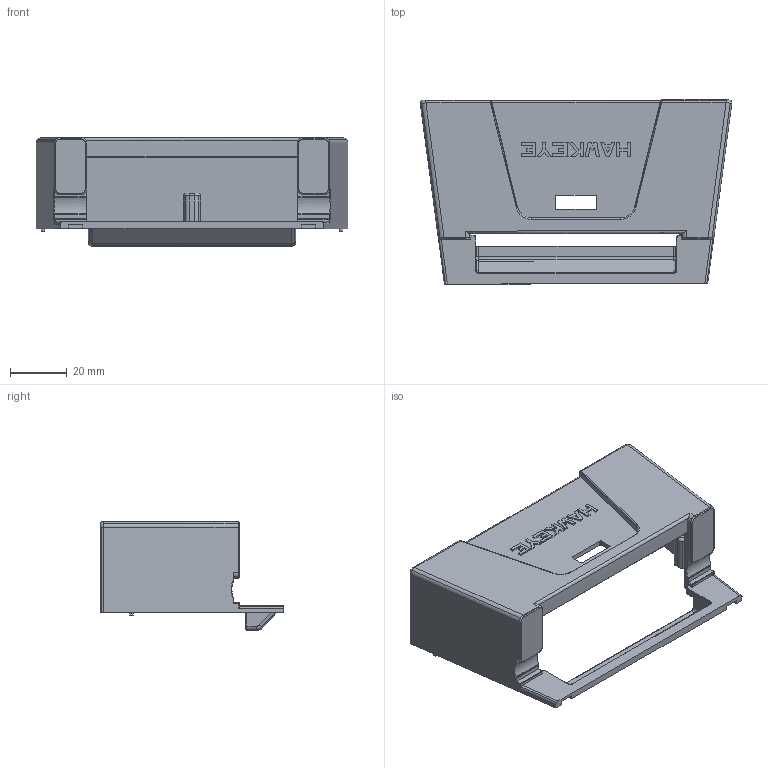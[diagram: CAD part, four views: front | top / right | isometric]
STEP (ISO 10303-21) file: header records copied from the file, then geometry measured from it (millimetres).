
FILE_DESCRIPTION(('STEP AP214'),'1');
FILE_NAME('01-Bottom Front Cover v19.stp','2020-04-02T22:03:39',(' '),(' '),'Spatial InterOp 3D',' ',' ');
FILE_SCHEMA(('AUTOMOTIVE_DESIGN { 1 0 10303 214 1 1 1 1 }'));
Length unit declared in the file: metre
Products named in the file (1): Corps1
Bounding box: 109.71 x 64.74 x 38.25 mm (x, y, z)
Volume: 33808.9 mm3; surface area: 29938.9 mm2
Topology: 1 solids, 1 shells, 506 faces, 1349 edges, 857 vertices
Faces by surface type: cylinder 247, plane 174, torus 40, bspline 37, sphere 8
Entity records: 23860 total; most frequent: CARTESIAN_POINT 11031, DIRECTION 2764, ORIENTED_EDGE 2690, EDGE_CURVE 1345, AXIS2_PLACEMENT_3D 1029, VERTEX_POINT 857, LINE 706, VECTOR 706
